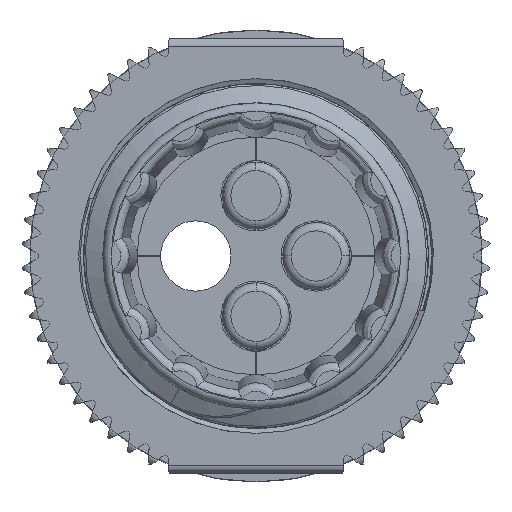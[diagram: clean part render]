
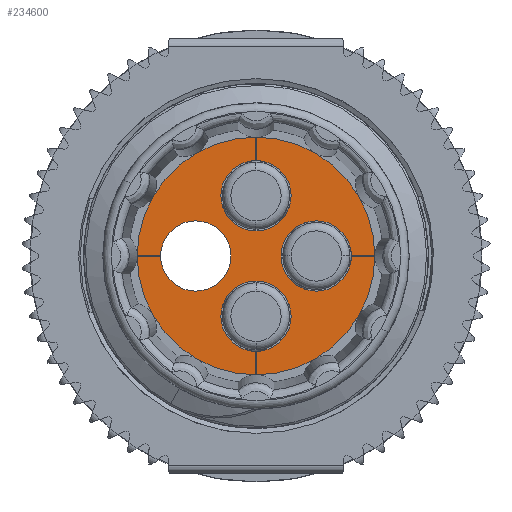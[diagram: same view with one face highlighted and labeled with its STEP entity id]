
A CAD part, left-side view. The second image highlights one B-rep face of the part: STEP entity #234600.
In plain terms, the highlighted planar face has unit normal (-1, 0, 0) as drawn and (0, 0, -1) by its records, which use the part's own axes.
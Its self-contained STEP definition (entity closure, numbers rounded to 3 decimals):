
#233320=CARTESIAN_POINT('',(0.,0.,0.));
#233330=DIRECTION('',(0.,0.,1.));
#233340=DIRECTION('',(1.,0.,0.));
#233350=AXIS2_PLACEMENT_3D('',#233320,#233330,#233340);
#233360=PLANE('',#233350);
#233370=CARTESIAN_POINT('',(0.,45.255,0.));
#233380=DIRECTION('',(1.,0.,0.));
#233390=VECTOR('',#233380,1.);
#233400=LINE('',#233370,#233390);
#233410=CARTESIAN_POINT('',(43.07,45.255,0.));
#233420=VERTEX_POINT('',#233410);
#233430=CARTESIAN_POINT('',(45.37,45.255,0.));
#233440=VERTEX_POINT('',#233430);
#233450=EDGE_CURVE('',#233420,#233440,#233400,.T.);
#233460=ORIENTED_EDGE('',*,*,#233450,.T.);
#233470=CARTESIAN_POINT('',(51.07,45.26,0.));
#233480=DIRECTION('',(0.,0.,1.));
#233490=DIRECTION('',(1.,0.,0.));
#233500=AXIS2_PLACEMENT_3D('',#233470,#233480,#233490);
#233510=CIRCLE('',#233500,8.);
#233520=CARTESIAN_POINT('',(51.065,37.26,0.));
#233530=VERTEX_POINT('',#233520);
#233540=EDGE_CURVE('',#233420,#233530,#233510,.T.);
#233550=ORIENTED_EDGE('',*,*,#233540,.F.);
#233560=CARTESIAN_POINT('',(51.065,0.,0.));
#233570=DIRECTION('',(0.,-1.,0.));
#233580=VECTOR('',#233570,1.);
#233590=LINE('',#233560,#233580);
#233600=CARTESIAN_POINT('',(51.065,39.56,0.));
#233610=VERTEX_POINT('',#233600);
#233620=EDGE_CURVE('',#233610,#233530,#233590,.T.);
#233630=ORIENTED_EDGE('',*,*,#233620,.T.);
#233640=CARTESIAN_POINT('',(51.07,41.66,0.));
#233650=DIRECTION('',(0.,0.,1.));
#233660=DIRECTION('',(1.,0.,0.));
#233670=AXIS2_PLACEMENT_3D('',#233640,#233650,#233660);
#233680=CIRCLE('',#233670,2.1);
#233690=CARTESIAN_POINT('',(51.075,39.56,0.));
#233700=VERTEX_POINT('',#233690);
#233710=EDGE_CURVE('',#233700,#233610,#233680,.T.);
#233720=ORIENTED_EDGE('',*,*,#233710,.T.);
#233730=CARTESIAN_POINT('',(51.075,0.,0.));
#233740=DIRECTION('',(0.,1.,0.));
#233750=VECTOR('',#233740,1.);
#233760=LINE('',#233730,#233750);
#233770=CARTESIAN_POINT('',(51.075,37.26,0.));
#233780=VERTEX_POINT('',#233770);
#233790=EDGE_CURVE('',#233780,#233700,#233760,.T.);
#233800=ORIENTED_EDGE('',*,*,#233790,.T.);
#233810=CARTESIAN_POINT('',(59.07,45.255,0.));
#233820=VERTEX_POINT('',#233810);
#233830=EDGE_CURVE('',#233780,#233820,#233510,.T.);
#233840=ORIENTED_EDGE('',*,*,#233830,.F.);
#233850=CARTESIAN_POINT('',(0.,45.255,0.));
#233860=DIRECTION('',(1.,0.,0.));
#233870=VECTOR('',#233860,1.);
#233880=LINE('',#233850,#233870);
#233890=CARTESIAN_POINT('',(56.77,45.255,0.));
#233900=VERTEX_POINT('',#233890);
#233910=EDGE_CURVE('',#233900,#233820,#233880,.T.);
#233920=ORIENTED_EDGE('',*,*,#233910,.T.);
#233930=CARTESIAN_POINT('',(54.67,45.26,0.));
#233940=DIRECTION('',(0.,0.,1.));
#233950=DIRECTION('',(1.,0.,0.));
#233960=AXIS2_PLACEMENT_3D('',#233930,#233940,#233950);
#233970=CIRCLE('',#233960,2.1);
#233980=CARTESIAN_POINT('',(56.77,45.265,0.));
#233990=VERTEX_POINT('',#233980);
#234000=EDGE_CURVE('',#233990,#233900,#233970,.T.);
#234010=ORIENTED_EDGE('',*,*,#234000,.T.);
#234020=CARTESIAN_POINT('',(0.,45.265,0.));
#234030=DIRECTION('',(-1.,0.,0.));
#234040=VECTOR('',#234030,1.);
#234050=LINE('',#234020,#234040);
#234060=CARTESIAN_POINT('',(59.07,45.265,0.));
#234070=VERTEX_POINT('',#234060);
#234080=EDGE_CURVE('',#234070,#233990,#234050,.T.);
#234090=ORIENTED_EDGE('',*,*,#234080,.T.);
#234100=CARTESIAN_POINT('',(51.075,53.26,0.));
#234110=VERTEX_POINT('',#234100);
#234120=EDGE_CURVE('',#234070,#234110,#233510,.T.);
#234130=ORIENTED_EDGE('',*,*,#234120,.F.);
#234140=CARTESIAN_POINT('',(51.075,0.,0.));
#234150=DIRECTION('',(0.,1.,0.));
#234160=VECTOR('',#234150,1.);
#234170=LINE('',#234140,#234160);
#234180=CARTESIAN_POINT('',(51.075,50.96,0.));
#234190=VERTEX_POINT('',#234180);
#234200=EDGE_CURVE('',#234190,#234110,#234170,.T.);
#234210=ORIENTED_EDGE('',*,*,#234200,.T.);
#234220=CARTESIAN_POINT('',(51.07,48.86,0.));
#234230=DIRECTION('',(0.,0.,1.));
#234240=DIRECTION('',(1.,0.,0.));
#234250=AXIS2_PLACEMENT_3D('',#234220,#234230,#234240);
#234260=CIRCLE('',#234250,2.1);
#234270=CARTESIAN_POINT('',(51.065,50.96,0.));
#234280=VERTEX_POINT('',#234270);
#234290=EDGE_CURVE('',#234280,#234190,#234260,.T.);
#234300=ORIENTED_EDGE('',*,*,#234290,.T.);
#234310=CARTESIAN_POINT('',(51.065,0.,0.));
#234320=DIRECTION('',(0.,-1.,0.));
#234330=VECTOR('',#234320,1.);
#234340=LINE('',#234310,#234330);
#234350=CARTESIAN_POINT('',(51.065,53.26,0.));
#234360=VERTEX_POINT('',#234350);
#234370=EDGE_CURVE('',#234360,#234280,#234340,.T.);
#234380=ORIENTED_EDGE('',*,*,#234370,.T.);
#234390=CARTESIAN_POINT('',(43.07,45.265,0.));
#234400=VERTEX_POINT('',#234390);
#234410=EDGE_CURVE('',#234360,#234400,#233510,.T.);
#234420=ORIENTED_EDGE('',*,*,#234410,.F.);
#234430=CARTESIAN_POINT('',(0.,45.265,0.));
#234440=DIRECTION('',(-1.,0.,0.));
#234450=VECTOR('',#234440,1.);
#234460=LINE('',#234430,#234450);
#234470=CARTESIAN_POINT('',(45.37,45.265,0.));
#234480=VERTEX_POINT('',#234470);
#234490=EDGE_CURVE('',#234480,#234400,#234460,.T.);
#234500=ORIENTED_EDGE('',*,*,#234490,.T.);
#234510=CARTESIAN_POINT('',(47.47,45.26,0.));
#234520=DIRECTION('',(0.,0.,1.));
#234530=DIRECTION('',(1.,0.,0.));
#234540=AXIS2_PLACEMENT_3D('',#234510,#234520,#234530);
#234550=CIRCLE('',#234540,2.1);
#234560=EDGE_CURVE('',#233440,#234480,#234550,.T.);
#234570=ORIENTED_EDGE('',*,*,#234560,.T.);
#234580=EDGE_LOOP('',(#234570,#234500,#234420,#234380,#234300,#234210,
#234130,#234090,#234010,#233920,#233840,#233800,#233720,#233630,#233550,
#233460));
#234590=FACE_OUTER_BOUND('',#234580,.T.);
#234600=ADVANCED_FACE('',(#234590),#233360,.F.);
